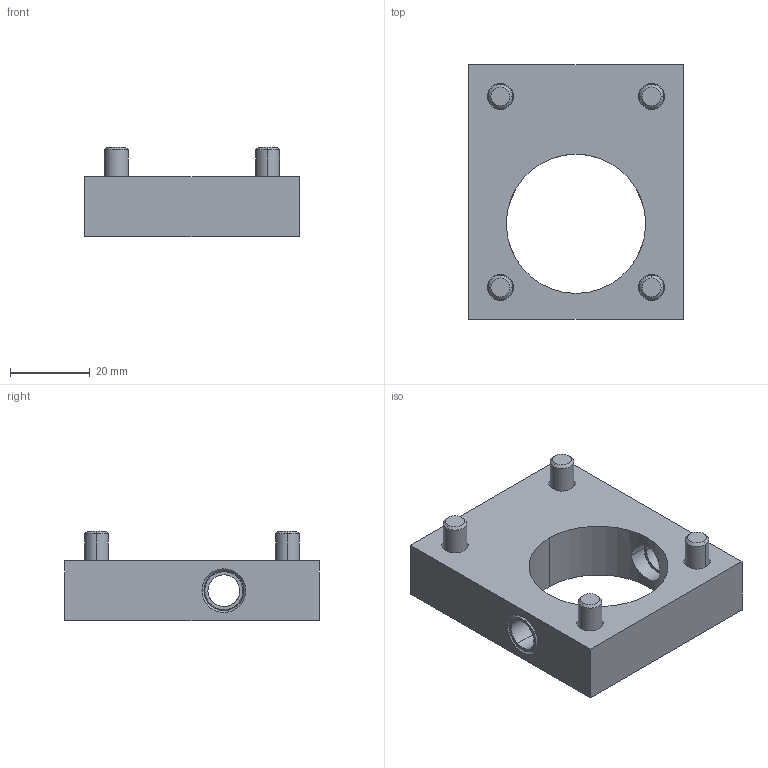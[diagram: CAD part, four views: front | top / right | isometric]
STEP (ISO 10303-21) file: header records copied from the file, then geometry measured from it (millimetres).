
FILE_DESCRIPTION (( 'STEP AP203' ), '1' );
FILE_NAME ('MJ0-KP(B2).STEP', '2024-01-05T13:24:24', ( '' ), ( '' ), 'SwSTEP 2.0', 'SolidWorks 2022', '' );
FILE_SCHEMA (( 'CONFIG_CONTROL_DESIGN' ));
Length unit declared in the file: millimetre
Products named in the file (1): MJ0-KP(B2)
Bounding box: 54 x 64 x 22.4 mm (x, y, z)
Volume: 35955.6 mm3; surface area: 15310.4 mm2
Topology: 7 solids, 7 shells, 140 faces, 334 edges, 212 vertices
Faces by surface type: plane 50, cylinder 46, cone 28, torus 16
Entity records: 4363 total; most frequent: CARTESIAN_POINT 1007, DIRECTION 728, ORIENTED_EDGE 652, EDGE_CURVE 326, AXIS2_PLACEMENT_3D 297, VERTEX_POINT 212, EDGE_LOOP 170, CIRCLE 156
